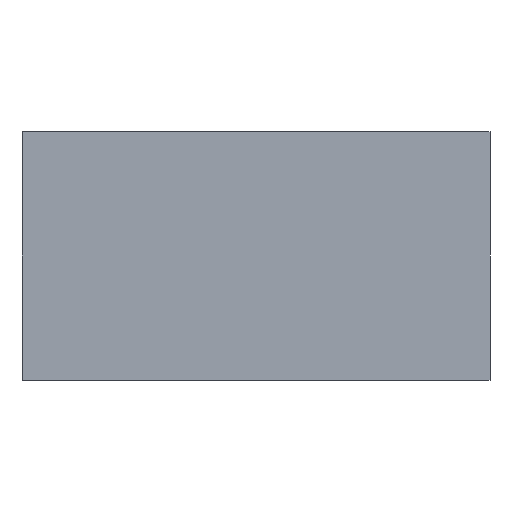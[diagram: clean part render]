
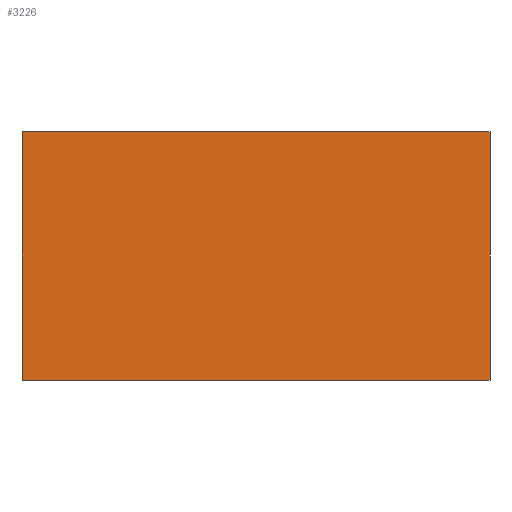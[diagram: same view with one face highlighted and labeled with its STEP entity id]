
A CAD part, front view. The second image highlights one B-rep face of the part: STEP entity #3226.
In plain terms, the highlighted planar face has unit normal (0, -1, 0) as drawn and (0, 0, -1) by its records, which use the part's own axes.
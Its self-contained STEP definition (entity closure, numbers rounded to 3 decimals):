
#753=DIRECTION('',(1.,0.,0.));
#754=VECTOR('',#753,35.);
#755=CARTESIAN_POINT('',(-1.8,18.15,-3.6));
#756=LINE('',#755,#754);
#757=DIRECTION('',(1.,0.,0.));
#758=VECTOR('',#757,35.);
#759=CARTESIAN_POINT('',(-1.8,-0.45,-3.6));
#760=LINE('',#759,#758);
#769=DIRECTION('',(0.,1.,0.));
#770=VECTOR('',#769,18.6);
#771=CARTESIAN_POINT('',(-1.8,-0.45,-3.6));
#772=LINE('',#771,#770);
#1409=DIRECTION('',(0.,-1.,0.));
#1410=VECTOR('',#1409,18.6);
#1411=CARTESIAN_POINT('',(33.2,18.15,-3.6));
#1412=LINE('',#1411,#1410);
#1857=CARTESIAN_POINT('',(-1.8,18.15,-3.6));
#1858=CARTESIAN_POINT('',(33.2,18.15,-3.6));
#1859=VERTEX_POINT('',#1857);
#1860=VERTEX_POINT('',#1858);
#1867=CARTESIAN_POINT('',(-1.8,-0.45,-3.6));
#1868=VERTEX_POINT('',#1867);
#1873=CARTESIAN_POINT('',(33.2,-0.45,-3.6));
#1874=VERTEX_POINT('',#1873);
#3212=CARTESIAN_POINT('',(15.7,8.85,-3.6));
#3213=DIRECTION('',(0.,0.,1.));
#3214=DIRECTION('',(1.,0.,0.));
#3215=AXIS2_PLACEMENT_3D('',#3212,#3213,#3214);
#3216=PLANE('',#3215);
#3217=ORIENTED_EDGE('',*,*,#3195,.F.);
#3219=ORIENTED_EDGE('',*,*,#3218,.F.);
#3221=ORIENTED_EDGE('',*,*,#3220,.T.);
#3223=ORIENTED_EDGE('',*,*,#3222,.F.);
#3224=EDGE_LOOP('',(#3217,#3219,#3221,#3223));
#3225=FACE_OUTER_BOUND('',#3224,.F.);
#3226=ADVANCED_FACE('',(#3225),#3216,.F.);
#3195=EDGE_CURVE('',#1859,#1860,#756,.T.);
#3218=EDGE_CURVE('',#1868,#1859,#772,.T.);
#3220=EDGE_CURVE('',#1868,#1874,#760,.T.);
#3222=EDGE_CURVE('',#1860,#1874,#1412,.T.);
